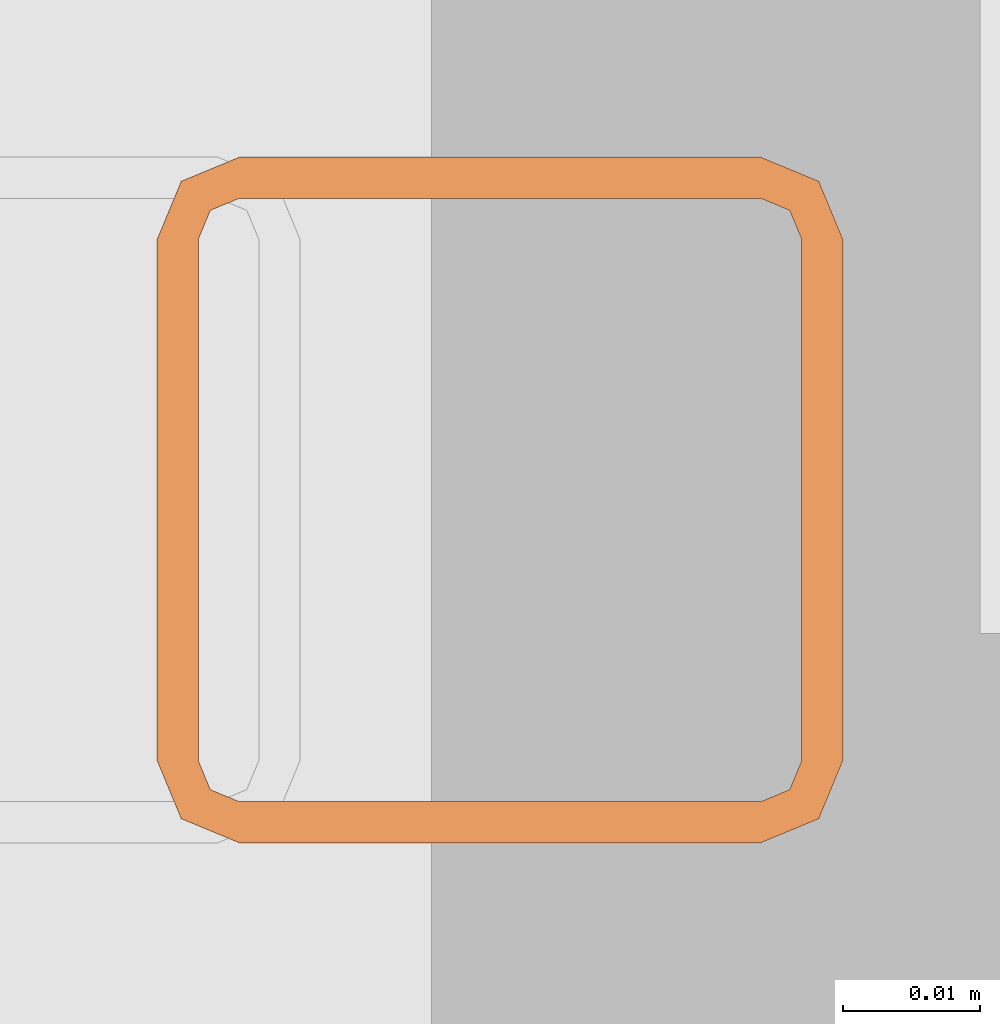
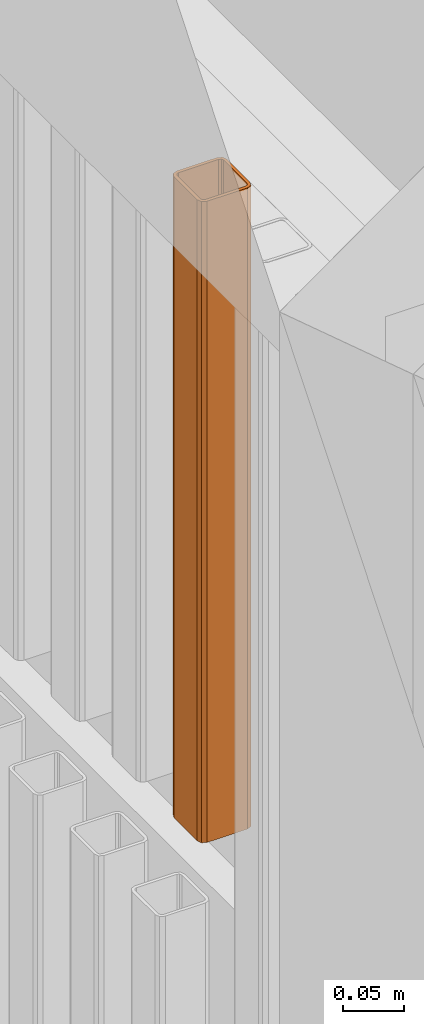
# One storey, part 84 of 112: 1 proxy.
"""IFC2X3 building model written with IfcOpenShell, lengths in millimetres."""

import ifcopenshell
import ifcopenshell.guid

model = None  # the IFC model being written
_history = None  # IfcOwnerHistory: only IFC2X3 demands one
_inside = {}  # id of a spatial element -> (the spatial element, [elements in it])
_under = {}  # id of a project, library or spatial element -> (it, [spatial elements below it])
_declared = {}  # id of a project -> (the project, [libraries it declares])
_typed = {}  # id of a type object -> (the type object, [elements of that type])
_made_of = {}  # id of a material, layer set ... -> (it, [elements and type objects made of it])


def new_model(schema):
    """Start an empty IFC model of exactly this schema.

    Asked for "IFC4X3", IfcOpenShell would pick the latest addendum, in which some entities
    have other attributes; the version numbers below select the first issue.
    IFC2X3 requires an IfcOwnerHistory on every rooted entity: one is made here for all.
    """
    global model, _history
    if schema == "IFC4X3":
        model = ifcopenshell.file(schema_version=(4, 3, 0, 0))
    else:
        model = ifcopenshell.file(schema=schema)
    _inside.clear()
    _under.clear()
    _declared.clear()
    _typed.clear()
    _made_of.clear()
    _history = None
    if model.schema == "IFC2X3":
        org = make("IfcOrganization", Name="unknown")
        user = make(
            "IfcPersonAndOrganization",
            ThePerson=make("IfcPerson", FamilyName="unknown"),
            TheOrganization=org,
        )
        app = make(
            "IfcApplication",
            ApplicationDeveloper=org,
            Version="unknown",
            ApplicationFullName="unknown",
            ApplicationIdentifier="unknown",
        )
        _history = make(
            "IfcOwnerHistory",
            OwningUser=user,
            OwningApplication=app,
            ChangeAction="ADDED",
            CreationDate=0,
        )
    return model


def make(cls, **values):
    """One entity of the class cls with the attributes given. An attribute that is None is left unset."""
    return model.create_entity(
        cls, **{name: value for name, value in values.items() if value is not None}
    )


def entity(cls, *values):
    """Any entity or typed value of the class cls, its attributes in the order of the schema. None: left unset."""
    e = model.create_entity(cls)
    for i, value in enumerate(values):
        if value is not None:
            e[i] = value
    return e


def rooted(cls, **values):
    """An entity with a GlobalId (a new one), such as an element, a storey or a relation."""
    return make(cls, GlobalId=ifcopenshell.guid.new(), OwnerHistory=_history, **values)


def si_unit(unit_type, name, prefix=None):
    """IfcSIUnit, for example si_unit("LENGTHUNIT", "METRE", prefix="MILLI")."""
    return make("IfcSIUnit", UnitType=unit_type, Prefix=prefix, Name=name)


def converted_unit(unit_type, name, factor, base, dimensions=None, offset=None):
    """IfcConversionBasedUnit, such as the inch: factor (a typed value) times the base unit."""
    return make(
        "IfcConversionBasedUnit"
        if offset is None
        else "IfcConversionBasedUnitWithOffset",
        ConversionOffset=offset,
        Dimensions=None
        if dimensions is None
        else entity("IfcDimensionalExponents", *dimensions),
        UnitType=unit_type,
        Name=name,
        ConversionFactor=make(
            "IfcMeasureWithUnit", ValueComponent=factor, UnitComponent=base
        ),
    )


def derived_unit(unit_type, elements):
    """IfcDerivedUnit: a product of units, each with its exponent."""
    return make(
        "IfcDerivedUnit",
        Elements=[
            make("IfcDerivedUnitElement", Unit=unit, Exponent=power)
            for unit, power in elements
        ],
        UnitType=unit_type,
    )


def money_unit(currency):
    """IfcMonetaryUnit."""
    return make("IfcMonetaryUnit", Currency=currency)


def assignment(units):
    """IfcUnitAssignment: the units of a project."""
    return None if units is None else make("IfcUnitAssignment", Units=units)


def point(xyz):
    """IfcCartesianPoint."""
    return None if xyz is None else make("IfcCartesianPoint", Coordinates=xyz)


def direction(xyz):
    """IfcDirection."""
    return None if xyz is None else make("IfcDirection", DirectionRatios=xyz)


def frame(location, z_axis=None, x_axis=None):
    """IfcAxis2Placement3D, a coordinate frame: its origin and axes. An axis left out is left unset."""
    return make(
        "IfcAxis2Placement3D",
        Location=point(location),
        Axis=direction(z_axis),
        RefDirection=direction(x_axis),
    )


def origin_with_axes():
    """The frame at (0, 0, 0) with the z axis (0, 0, 1) and the x axis (1, 0, 0) written out."""
    return frame((0.0, 0.0, 0.0), z_axis=(0.0, 0.0, 1.0), x_axis=(1.0, 0.0, 0.0))


def place(relative_to, where):
    """IfcLocalPlacement: puts the frame where relative to a parent placement (None: the world)."""
    return make(
        "IfcLocalPlacement", PlacementRelTo=relative_to, RelativePlacement=where
    )


def context(
    kind, dimensions, precision=None, world=None, true_north=None, identifier=None
):
    """IfcGeometricRepresentationContext, for example the 3D "Model" context."""
    return make(
        "IfcGeometricRepresentationContext",
        ContextIdentifier=identifier,
        ContextType=kind,
        CoordinateSpaceDimension=dimensions,
        Precision=precision,
        WorldCoordinateSystem=world,
        TrueNorth=true_north,
    )


def subcontext(parent, identifier, kind, view, scale=None):
    """IfcGeometricRepresentationSubContext, for example "Body" below "Model"."""
    return make(
        "IfcGeometricRepresentationSubContext",
        ContextIdentifier=identifier,
        ContextType=kind,
        ParentContext=parent,
        TargetScale=scale,
        TargetView=view,
    )


def project(units=None, contexts=None):
    """IfcProject with its units and contexts."""
    return rooted(
        "IfcProject",
        Name="project",
        RepresentationContexts=contexts,
        UnitsInContext=assignment(units),
    )


def spatial(cls, under=None, at=None, **own):
    """A site, building, storey or space (cls), placed at a placement, below another one or the project."""
    s = rooted(cls, ObjectPlacement=at, **own)
    if under is not None:
        _under.setdefault(under.id(), (under, []))[1].append(s)
    return s


def faces_of(points, faces, orient=None, outer=None):
    """IfcFace entities. A face is a list of loops; a loop is a list of indices into points, from 0.

    orient and outer hold one flag for each loop. By default every Orientation is true, the
    first loop of a face is its IfcFaceOuterBound and the others are IfcFaceBound.
    """
    made = []
    for i, loops in enumerate(faces):
        bounds = []
        for j, loop in enumerate(loops):
            is_outer = j == 0 if outer is None else outer[i][j]
            bounds.append(
                make(
                    "IfcFaceOuterBound" if is_outer else "IfcFaceBound",
                    Bound=make("IfcPolyLoop", Polygon=[points[k] for k in loop]),
                    Orientation=True if orient is None else orient[i][j],
                )
            )
        made.append(make("IfcFace", Bounds=bounds))
    return made


def faceted_brep(points, faces, orient=None, outer=None, voids=None):
    """IfcFacetedBrep: a solid bounded by flat faces; with voids (closed shells), ...WithVoids."""
    shared = [point(p) for p in points]
    hull = make("IfcClosedShell", CfsFaces=faces_of(shared, faces, orient, outer))
    if voids is None:
        return make("IfcFacetedBrep", Outer=hull)
    return make(
        "IfcFacetedBrepWithVoids",
        Outer=hull,
        Voids=[
            make(cls, CfsFaces=faces_of(shared, fs, o, b)) for cls, fs, o, b in voids
        ],
    )


def shape(context_of_items, identifier, shape_type, items):
    """IfcShapeRepresentation: the items that make up one representation, for example the "Body"."""
    return make(
        "IfcShapeRepresentation",
        ContextOfItems=context_of_items,
        RepresentationIdentifier=identifier,
        RepresentationType=shape_type,
        Items=items,
    )


def source(mapping_origin, context_of_items, identifier, shape_type, items):
    """IfcRepresentationMap: a shape defined once, which mapped items show again and again."""
    return make(
        "IfcRepresentationMap",
        MappingOrigin=mapping_origin,
        MappedRepresentation=shape(context_of_items, identifier, shape_type, items),
    )


def transform(
    local_origin,
    x_axis=None,
    y_axis=None,
    z_axis=None,
    scale=None,
    scale2=None,
    scale3=None,
    uniform=True,
):
    """IfcCartesianTransformationOperator3D, or its non-uniform kind. x_axis, y_axis, z_axis: its Axis1, 2, 3."""
    if uniform:
        return make(
            "IfcCartesianTransformationOperator3D",
            Axis1=direction(x_axis),
            Axis2=direction(y_axis),
            LocalOrigin=point(local_origin),
            Scale=scale,
            Axis3=direction(z_axis),
        )
    return make(
        "IfcCartesianTransformationOperator3DnonUniform",
        Axis1=direction(x_axis),
        Axis2=direction(y_axis),
        LocalOrigin=point(local_origin),
        Scale=scale,
        Axis3=direction(z_axis),
        Scale2=scale2,
        Scale3=scale3,
    )


def mapped(mapping_source, mapping_target):
    """IfcMappedItem: shows the shape of a source again, moved by a transform."""
    return make(
        "IfcMappedItem", MappingSource=mapping_source, MappingTarget=mapping_target
    )


def material(Name=None, Category=None):
    """IfcMaterial."""
    return make("IfcMaterial", Name=Name, Category=Category)


def made_of(thing, what):
    """Note that an element or type object is made of a material, layer set ...; save() writes the relation."""
    if what is not None:
        _made_of.setdefault(what.id(), (what, []))[1].append(thing)
    return thing


def type_object(cls, material=None, **own):
    """A type object (cls), such as IfcWallType, which elements share."""
    return made_of(rooted(cls, **own), material)


def element(
    cls,
    number,
    at=None,
    inside=None,
    cuts=None,
    type_object=None,
    material=None,
    context=None,
    identifier="Body",
    shape_type=None,
    held_by="IfcProductDefinitionShape",
    body=None,
    shapes=None,
    **own,
):
    """One element of the class cls, such as IfcWall. Its Tag is "e" and its number.

    at: its placement. inside: the storey or other place that contains it. cuts: it is an
    opening in that element (IfcRelVoidsElement). A single representation is given by context,
    identifier, shape_type and body (its items); several are given by shapes. held_by: the class
    of the entity that holds the representations. save() writes the other relations.
    """
    e = rooted(cls, Tag="e%d" % number, ObjectPlacement=at, **own)
    if body is not None:
        shapes = [shape(context, identifier, shape_type, body)]
    if shapes is not None:
        e.Representation = make(held_by, Representations=shapes)
    if inside is not None:
        _inside.setdefault(inside.id(), (inside, []))[1].append(e)
    if cuts is not None:
        rooted(
            "IfcRelVoidsElement", RelatingBuildingElement=cuts, RelatedOpeningElement=e
        )
    if type_object is not None:
        _typed.setdefault(type_object.id(), (type_object, []))[1].append(e)
    return made_of(e, material)


def aggregate(whole, parts):
    """IfcRelAggregates: a whole, such as a stair, and the parts it consists of."""
    return rooted("IfcRelAggregates", RelatingObject=whole, RelatedObjects=parts)


def save(model, path):
    """Write the relations noted so far, then the file.

    IfcRelAggregates (storeys below a building ...), IfcRelContainedInSpatialStructure (elements
    in a storey), IfcRelDefinesByType, IfcRelAssociatesMaterial and IfcRelDeclares: one each for
    every whole, place, type object, material and project.
    """
    for whole, parts in _under.values():
        aggregate(whole, parts)
    for where, things in _inside.values():
        rooted(
            "IfcRelContainedInSpatialStructure",
            RelatedElements=things,
            RelatingStructure=where,
        )
    for kind, things in _typed.values():
        rooted("IfcRelDefinesByType", RelatedObjects=things, RelatingType=kind)
    for what, things in _made_of.values():
        rooted("IfcRelAssociatesMaterial", RelatedObjects=things, RelatingMaterial=what)
    for by, libraries in _declared.values():
        rooted("IfcRelDeclares", RelatingContext=by, RelatedDefinitions=libraries)
    model.write(path)


model = new_model("IFC2X3")

# Units and contexts
model_context = context("Model", 3, precision=0.01, world=origin_with_axes(), true_north=direction((0.0, 1.0)))
body_context = subcontext(model_context, "Body", "Model", "MODEL_VIEW")
ifc_project = project(units=[si_unit("LENGTHUNIT", "METRE", prefix="MILLI"), si_unit("AREAUNIT", "SQUARE_METRE"), si_unit("VOLUMEUNIT", "CUBIC_METRE"), converted_unit("PLANEANGLEUNIT", "DEGREE", entity("IfcPlaneAngleMeasure", 0.0174532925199), si_unit("PLANEANGLEUNIT", "RADIAN"), dimensions=[0, 0, 0, 0, 0, 0, 0]), si_unit("SOLIDANGLEUNIT", "STERADIAN"), money_unit("EUR"), converted_unit("TIMEUNIT", "Year", entity("IfcTimeMeasure", 31556926.0), si_unit("TIMEUNIT", "SECOND"), dimensions=[0, 0, 1, 0, 0, 0, 0]), si_unit("MASSUNIT", "GRAM", prefix="KILO"), si_unit("THERMODYNAMICTEMPERATUREUNIT", "DEGREE_CELSIUS"), si_unit("LUMINOUSINTENSITYUNIT", "LUMEN"), si_unit("ENERGYUNIT", "JOULE", prefix="MEGA"), derived_unit("THERMALCONDUCTANCEUNIT", [(si_unit("POWERUNIT", "WATT"), 1), (si_unit("LENGTHUNIT", "METRE"), -1), (si_unit("THERMODYNAMICTEMPERATUREUNIT", "KELVIN"), -1)]), derived_unit("SPECIFICHEATCAPACITYUNIT", [(si_unit("ENERGYUNIT", "JOULE"), 1), (si_unit("MASSUNIT", "GRAM", prefix="KILO"), -1), (si_unit("THERMODYNAMICTEMPERATUREUNIT", "KELVIN"), -1)]), derived_unit("MASSDENSITYUNIT", [(si_unit("MASSUNIT", "GRAM", prefix="KILO"), 1), (si_unit("VOLUMEUNIT", "CUBIC_METRE"), -1)])], contexts=[model_context])

# Site, building, storey
site_placement = place(None, origin_with_axes())
site = spatial("IfcSite", under=ifc_project, at=site_placement, Name="Politse- ja Piirivalveameti ning Päästeameti ühishoone", CompositionType="ELEMENT")
building_placement = place(site_placement, origin_with_axes())
building = spatial("IfcBuilding", under=site, at=building_placement, Name="Politse- ja Piirivalveameti ning Päästeameti ühishoone", CompositionType="ELEMENT")
storey_placement = place(building_placement, origin_with_axes())
storey = spatial("IfcBuildingStorey", under=building, at=storey_placement, Name="Esimene korrus", CompositionType="ELEMENT", Elevation=0.0)

# Proxy
ifc_material = material(Name="ET-05_Teras")
building_element_proxy_type = type_object("IfcBuildingElementProxyType", Name="SHS Cold-Formed Column 23", PredefinedType="NOTDEFINED")
shared_shape = source(origin_with_axes(), body_context, "Body", "Brep", [
    faceted_brep([(19.0, -25.0, 0.0), (19.0, -25.0, 640.197821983), (-19.0, -25.0, 640.197821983), (-19.0, -25.0, 0.0), (23.2426406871, -23.2426406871, 0.0), (23.2426406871, -23.2426406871, 640.197821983), (25.0, -19.0, 640.197821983), (25.0, 19.0, 640.197821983), (23.2426406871, 23.2426406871, 640.197821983), (19.0, 25.0, 640.197821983), (-19.0, 25.0, 640.197821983), (-23.2426406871, 23.2426406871, 640.197821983), (-25.0, 19.0, 640.197821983), (-25.0, -19.0, 640.197821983), (-23.2426406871, -23.2426406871, 640.197821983), (19.0, -22.0, 640.197821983), (-19.0, -22.0, 640.197821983), (-21.1213203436, -21.1213203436, 640.197821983), (-22.0, -19.0, 640.197821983), (-22.0, 19.0, 640.197821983), (-21.1213203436, 21.1213203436, 640.197821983), (-19.0, 22.0, 640.197821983), (19.0, 22.0, 640.197821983), (21.1213203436, 21.1213203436, 640.197821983), (22.0, 19.0, 640.197821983), (22.0, -19.0, 640.197821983), (21.1213203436, -21.1213203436, 640.197821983), (-23.2426406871, -23.2426406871, 0.0), (-25.0, -19.0, 0.0), (-25.0, 19.0, 0.0), (-23.2426406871, 23.2426406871, 0.0), (-19.0, 25.0, 0.0), (19.0, 25.0, 0.0), (23.2426406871, 23.2426406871, 0.0), (25.0, 19.0, 0.0), (25.0, -19.0, 0.0), (19.0, -22.0, 0.0), (21.1213203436, -21.1213203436, 0.0), (22.0, -19.0, 0.0), (22.0, 19.0, 0.0), (21.1213203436, 21.1213203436, 0.0), (19.0, 22.0, 0.0), (-19.0, 22.0, 0.0), (-21.1213203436, 21.1213203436, 0.0), (-22.0, 19.0, 0.0), (-22.0, -19.0, 0.0), (-21.1213203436, -21.1213203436, 0.0), (-19.0, -22.0, 0.0)], [[[0, 1, 2, 3]], [[4, 5, 1, 0]], [[1, 5, 6, 7, 8, 9, 10, 11, 12, 13, 14, 2], [15, 16, 17, 18, 19, 20, 21, 22, 23, 24, 25, 26]], [[3, 2, 14, 27]], [[0, 3, 27, 28, 29, 30, 31, 32, 33, 34, 35, 4], [36, 37, 38, 39, 40, 41, 42, 43, 44, 45, 46, 47]], [[35, 6, 5, 4]], [[34, 7, 6, 35]], [[33, 8, 7, 34]], [[32, 9, 8, 33]], [[31, 10, 9, 32]], [[30, 11, 10, 31]], [[29, 12, 11, 30]], [[28, 13, 12, 29]], [[27, 14, 13, 28]], [[47, 16, 15, 36]], [[46, 17, 16, 47]], [[45, 18, 17, 46]], [[44, 19, 18, 45]], [[43, 20, 19, 44]], [[42, 21, 20, 43]], [[41, 22, 21, 42]], [[40, 23, 22, 41]], [[39, 24, 23, 40]], [[38, 25, 24, 39]], [[37, 26, 25, 38]], [[36, 15, 26, 37]]]),
])
proxy_placement = place(storey_placement, frame((-434.917056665, 16750.499859, 2159.80217802), z_axis=(0.0, 0.0, 1.0), x_axis=(-1.0, -1.30049817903e-07, 0.0)))
element("IfcBuildingElementProxy", 1, at=proxy_placement, inside=storey, type_object=building_element_proxy_type, material=ifc_material, Name="Fassaadiribid", context=body_context, shape_type="MappedRepresentation", body=[
    mapped(shared_shape, transform((0.0, 0.0, 0.0))),
])

save(model, "model.ifc")
